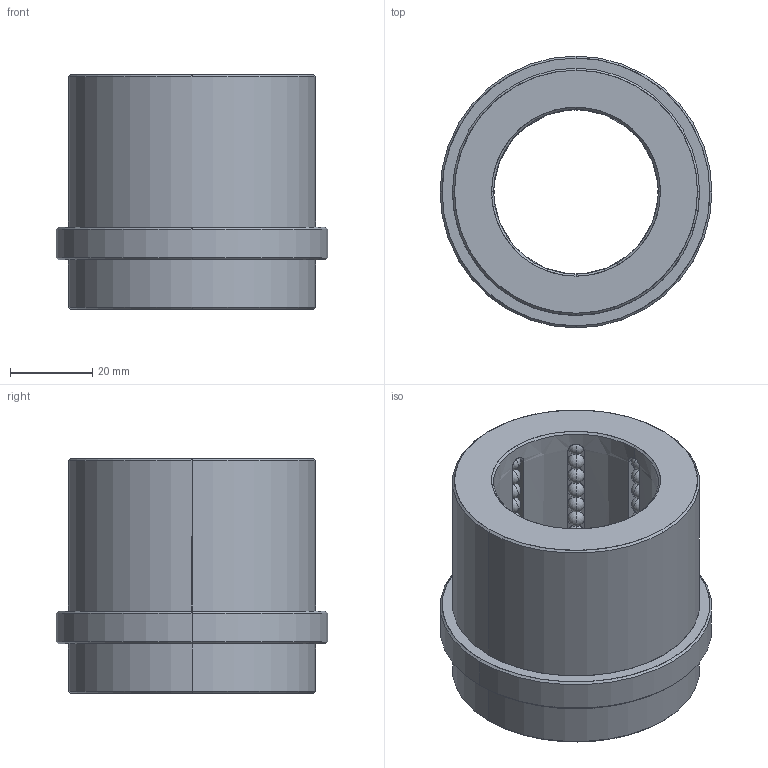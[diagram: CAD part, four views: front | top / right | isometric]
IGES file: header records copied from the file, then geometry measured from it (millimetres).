
Start section: START RECORD GO HERE.
Global section: file name: B8024045.igs; native system: DASSAULT SYSTEMES CATIA V5 R20 - www.3ds.com; preprocessor: CATIA Version 5 Release 20 ; author: Utente; organization: NB04-ASUS; date: 20200419.145828; units: millimetre
Bounding box: 66 x 66 x 57 mm (x, y, z)
Surface area: 30250.6 mm2 (no closed solid volume)
Topology: 0 solids, 0 shells, 460 faces, 1908 edges, 1140 vertices
Faces by surface type: revolution 432, plane 28
